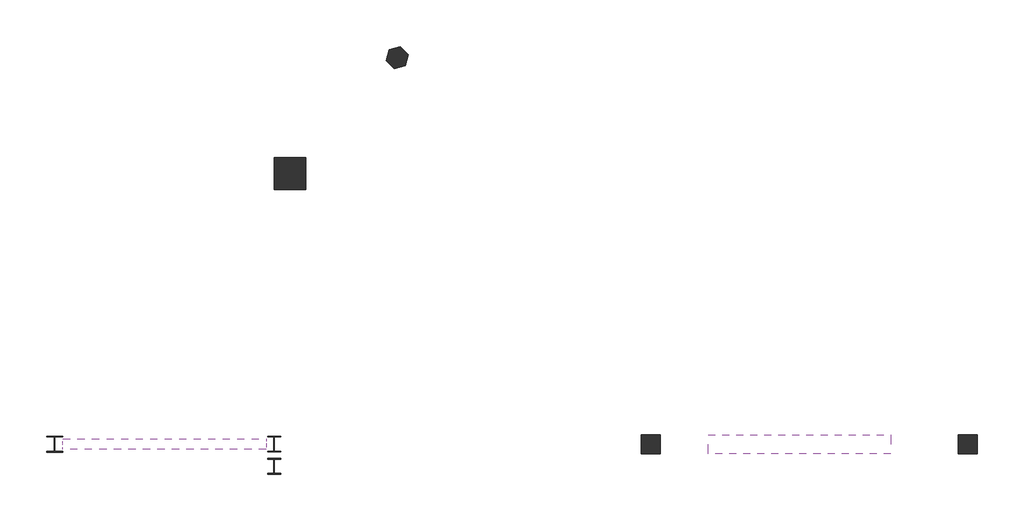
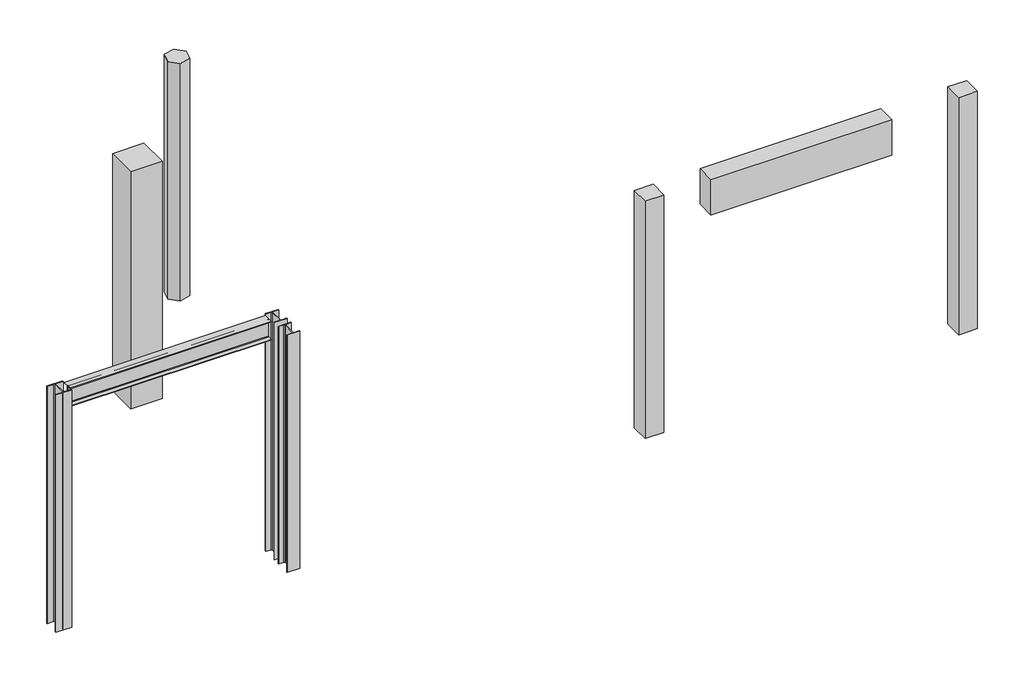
# One storey: 7 columns, 2 beams.
"""IFC4 building model written with IfcOpenShell, lengths in millimetres."""

from ifc_helpers import new_model, si_unit, frame, origin, origin_with_axes, place, context, project, spatial, polyline, outline, extrude, transform, mapped, element, save
from components import w310x38_7_81d6efd2, column_b00e1716, column_fef89007, w250x49_1_79517764, w250x73_c61b7e31

model = new_model("IFC4")

# Units and contexts
model_context = context("Model", 3, world=origin())
ifc_project = project(units=[si_unit("LENGTHUNIT", "METRE", prefix="MILLI")], contexts=[model_context])

# Site, building, storey
site = spatial("IfcSite", under=ifc_project)
building = spatial("IfcBuilding", under=site)
storey = spatial("IfcBuildingStorey", under=building, Name="Уровень 1", Elevation=0.0)

# Beams
placement = place(None, origin())
element("IfcBeam", 1, ObjectType="Бетон-Балка прямоугольного сечения : 300 x 600 мм", at=placement, inside=storey, context=model_context, shape_type="SweptSolid", body=[
    extrude(outline(polyline([(-5537.490131, 141.382944), (-5537.490131, 441.382944), (-2657.490131, 441.382944), (-2657.490131, 141.382944), (-5537.490131, 141.382944)])), frame((0.0, 0.0, 3400.0), z_axis=(0.0, 0.0, 1.0), x_axis=(1.0, 0.0, 0.0)), (0.0, 0.0, 1.0), 600.0),
])
w310x38_7_shape = w310x38_7_81d6efd2(model_context)
element("IfcBeam", 2, ObjectType="M_W Формы : W310X38.7", at=placement, inside=storey, context=model_context, shape_type="MappedRepresentation", body=[
    mapped(w310x38_7_shape, transform((-14107.4485115, 291.382944, 3845.0), x_axis=(-1.0, 0.0, 0.0), y_axis=(0.0, -1.0, 0.0), z_axis=(0.0, 0.0, 1.0))),
])

# Columns
element("IfcColumn", 3, ObjectType="Бетон-Квадратного сечения-Колонна : 300 x 300 мм", at=placement, inside=storey, context=model_context, shape_type="SweptSolid", body=[
    extrude(outline(polyline([(-6287.490131, 441.382944), (-6287.490131, 141.382944), (-6587.490131, 141.382944), (-6587.490131, 441.382944), (-6287.490131, 441.382944)])), origin_with_axes(), (0.0, 0.0, 1.0), 4000.0),
])
element("IfcColumn", 4, ObjectType="Бетон-Квадратного сечения-Колонна : 300 x 300 мм", at=placement, inside=storey, context=model_context, shape_type="SweptSolid", body=[
    extrude(outline(polyline([(-1291.4644633, 441.382944), (-1291.4644633, 141.382944), (-1591.4644633, 141.382944), (-1591.4644633, 441.382944), (-1291.4644633, 441.382944)])), origin_with_axes(), (0.0, 0.0, 1.0), 4000.0),
])
column_shape = column_b00e1716(model_context)
element("IfcColumn", 5, ObjectType="Семейство5 : Семейство5", at=placement, inside=storey, context=model_context, shape_type="MappedRepresentation", body=[
    mapped(column_shape, transform((-12127.406892, 4560.2455349, 0.0), x_axis=(1.0, 0.0, 0.0), y_axis=(0.0, 1.0, 0.0), z_axis=(0.0, 0.0, 1.0))),
])
column_2_shape = column_fef89007(model_context)
element("IfcColumn", 6, ObjectType="Семейство6 : Семейство6", at=placement, inside=storey, context=model_context, shape_type="MappedRepresentation", body=[
    mapped(column_2_shape, transform((-10437.490131, 6391.382944, 0.0), x_axis=(1.0, 0.0, 0.0), y_axis=(0.0, 1.0, 0.0), z_axis=(0.0, 0.0, 1.0))),
])
w250x49_1_shape = w250x49_1_79517764(model_context)
element("IfcColumn", 7, ObjectType="M_W Формы-Колонна : W250X49.1", at=placement, inside=storey, context=model_context, shape_type="MappedRepresentation", body=[
    mapped(w250x49_1_shape, transform((-12377.406892, 291.382944, 0.0), x_axis=(1.0, 0.0, 0.0), y_axis=(0.0, 1.0, 0.0), z_axis=(0.0, 0.0, 1.0))),
])
element("IfcColumn", 8, ObjectType="M_W Формы-Колонна : W250X49.1", at=placement, inside=storey, context=model_context, shape_type="MappedRepresentation", body=[
    mapped(w250x49_1_shape, transform((-12377.406892, -58.617056, 0.0), x_axis=(1.0, 0.0, 0.0), y_axis=(0.0, 1.0, 0.0), z_axis=(0.0, 0.0, 1.0))),
])
w250x73_shape = w250x73_c61b7e31(model_context)
element("IfcColumn", 9, ObjectType="M_W Формы-Колонна : W250X73", at=placement, inside=storey, context=model_context, shape_type="MappedRepresentation", body=[
    mapped(w250x73_shape, transform((-15837.490131, 291.382944, 0.0), x_axis=(1.0, 0.0, 0.0), y_axis=(0.0, 1.0, 0.0), z_axis=(0.0, 0.0, 1.0))),
])

save(model, "model.ifc")
